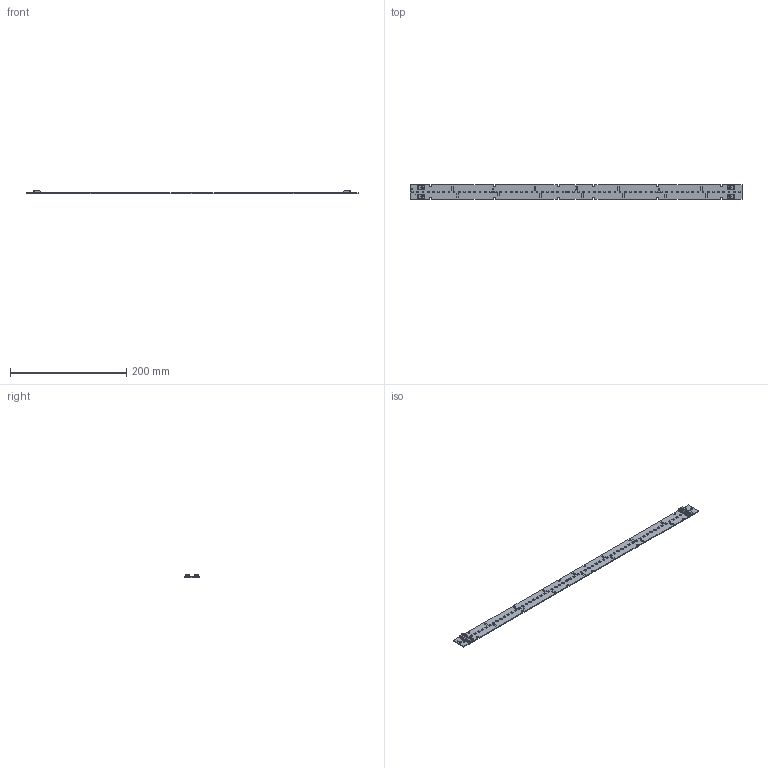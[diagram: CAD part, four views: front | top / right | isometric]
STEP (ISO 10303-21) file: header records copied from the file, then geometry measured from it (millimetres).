
FILE_DESCRIPTION((''),'2;1');
FILE_NAME('QC64DG225_06072021_10-30-02_ASM','2021-06-07T',('SYSTEM'),(''),'PRO/ENGINEER BY PARAMETRIC TECHNOLOGY CORPORATION, 2009360','PRO/ENGINEER BY PARAMETRIC TECHNOLOGY CORPORATION, 2009360','');
FILE_SCHEMA(('AUTOMOTIVE_DESIGN_CC2 { 1 2 10303 214 -1 1 5 2 }'));
Length unit declared in the file: inch
Products named in the file (7): QC64DG225_06072021_10-30-02; 3030_S_LES; RESC1608X84N; RESC6431X63N; TC_R1MM; WAGO_2PIN; QC64DG225_06072021_10-30-02_ASM
Assembly tree (86 placements, depth 2):
  QC64DG225_06072021_10-30-02_ASM
    QC64DG225_06072021_10-30-02
    3030_S_LES  x64
    RESC1608X84N  x2
    RESC6431X63N  x14
    TC_R1MM
    WAGO_2PIN  x4
Bounding box: 571.5 x 25.4 x 6.34 mm (x, y, z)
Volume: 24559.6 mm3; surface area: 35170.5 mm2
Topology: 86 solids, 86 shells, 2276 faces, 7760 edges, 6400 vertices
Faces by surface type: plane 2044, cylinder 216, sphere 16
Entity records: 18069 total; most frequent: CARTESIAN_POINT 2807, ORIENTED_EDGE 2474, DIRECTION 2362, EDGE_CURVE 1237, VECTOR 1078, LINE 1078, VERTEX_POINT 844, PRESENTATION_STYLE_ASSIGNMENT 776
